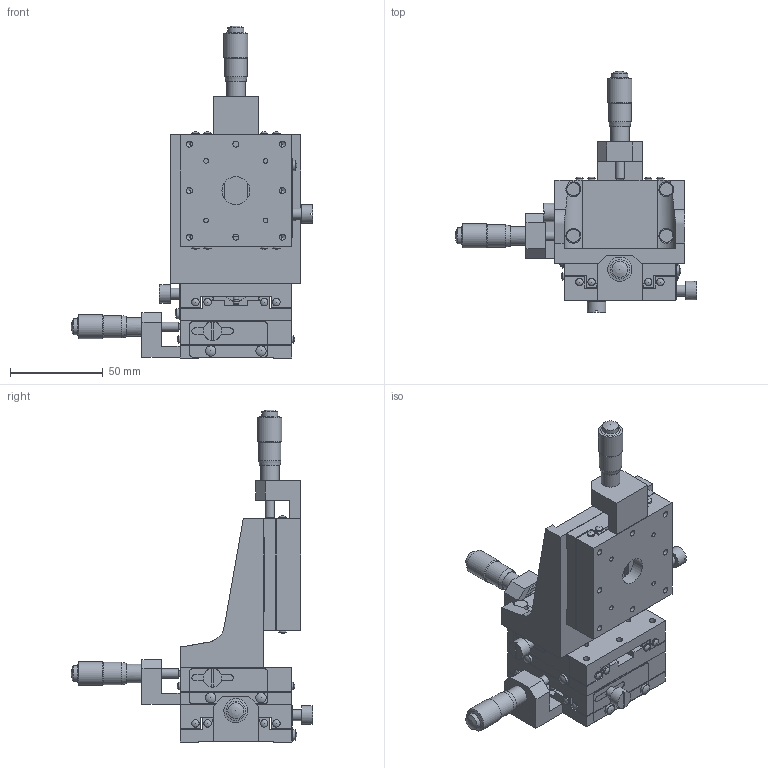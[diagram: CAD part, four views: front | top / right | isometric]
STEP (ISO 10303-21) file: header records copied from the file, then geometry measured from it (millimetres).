
FILE_DESCRIPTION( ( 'STEP AP203' ), '1' );
FILE_NAME( 'C:/3D-Trans/3D_B71-60A+090217.step', '2009-02-26T08:01:22', ( ' ' ), ( ' ' ), 'XStep 1.0', ' ', ' ' );
FILE_SCHEMA( ( 'CONFIG_CONTROL_DESIGN' ) );
Length unit declared in the file: millimetre
Products named in the file (10): 1; 2; 3; 4; 5; 6; 7; 8; 9; 10
Bounding box: 129.8 x 129.8 x 178.5 mm (x, y, z)
Volume: 293182.5 mm3; surface area: 113870.9 mm2
Topology: 10 solids, 10 shells, 551 faces, 1453 edges, 977 vertices
Faces by surface type: plane 293, cylinder 195, sphere 36, cone 27
Full cylindrical faces by diameter (mm): 2 x6, 2.5 x12, 2.6 x3, 3 x15, 3.3 x42, 4 x30, 4.5 x8, 5 x6, 5.6 x6, 6 x3, 7 x4, 8 x8, 8.6 x3, 9 x3, 10 x6, 10.5 x3, 12 x6, 13 x6, 15 x3
Entity records: 15330 total; most frequent: CARTESIAN_POINT 2929, DIRECTION 2524, ORIENTED_EDGE 2044, EDGE_CURVE 1022, AXIS2_PLACEMENT_3D 965, EDGE_LOOP 924, VERTEX_POINT 800, FACE_OUTER_BOUND 724
